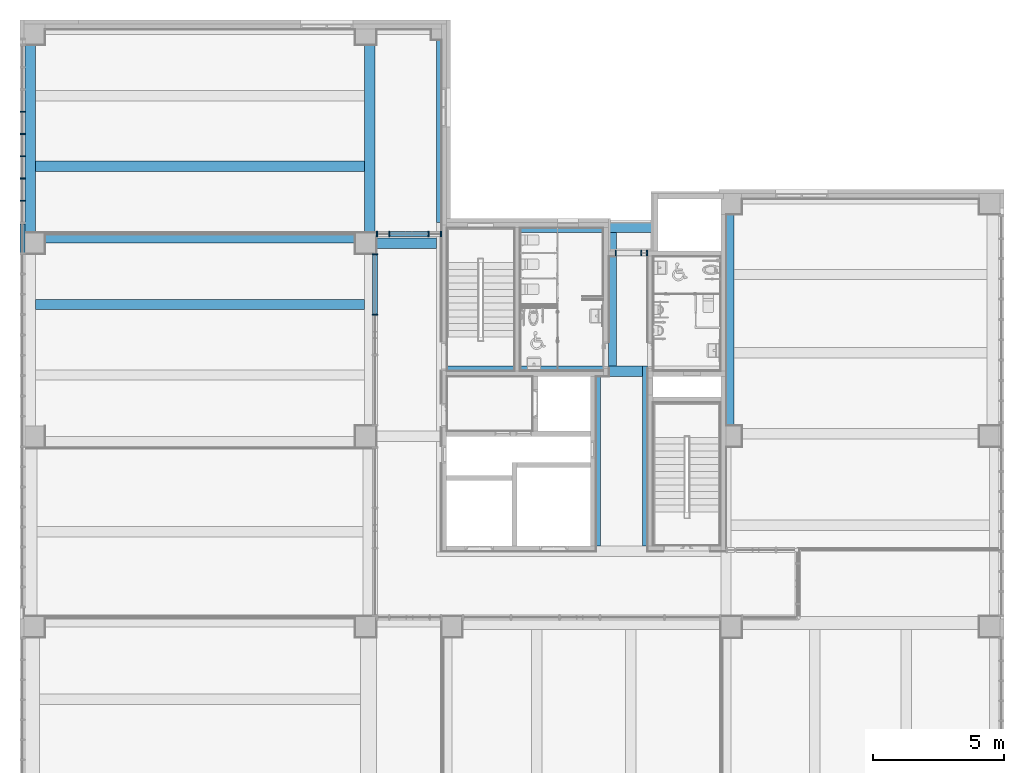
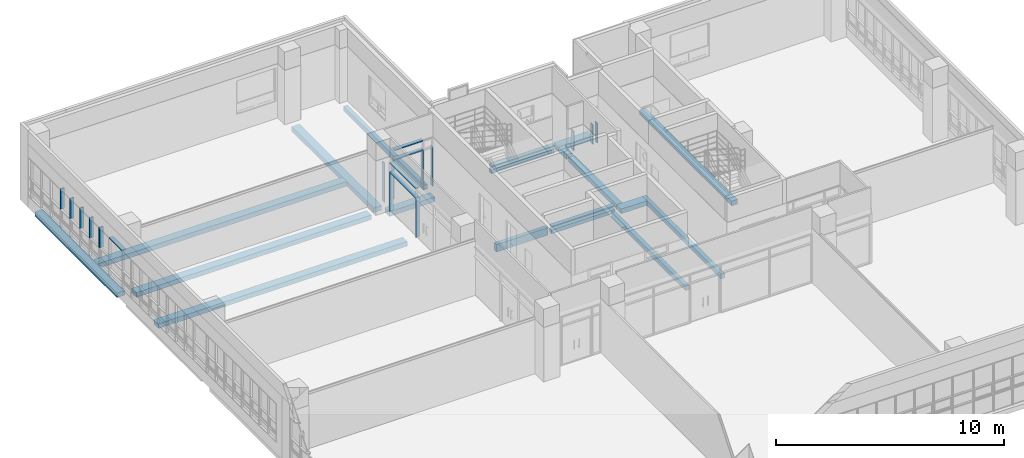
# One storey, part 6 of 81: 19 members, 13 beams, 4 elements without a shape of their own.
"""IFC2X3 building model written with IfcOpenShell, lengths in millimetres."""

from ifc_helpers import new_model, entity, si_unit, converted_unit, derived_unit, direction, frame, frame_2d, origin, origin_2d_with_axis, place, context, subcontext, project, spatial, rectangle, extrude, source, transform, mapped, material, type_object, type_shapes, element, aggregate, save


model = new_model("IFC2X3")

# Units and contexts
model_context = context("Model", 3, precision=0.01, world=origin(), true_north=direction((6.123031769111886e-17, 1.0)))
body_context = subcontext(model_context, "Body", "Model", "MODEL_VIEW")
ifc_project = project(units=[si_unit("LENGTHUNIT", "METRE", prefix="MILLI"), si_unit("AREAUNIT", "SQUARE_METRE"), si_unit("VOLUMEUNIT", "CUBIC_METRE"), converted_unit("PLANEANGLEUNIT", "DEGREE", entity("IfcRatioMeasure", 0.017453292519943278), si_unit("PLANEANGLEUNIT", "RADIAN"), dimensions=[0, 0, 0, 0, 0, 0, 0]), si_unit("MASSUNIT", "GRAM", prefix="KILO"), derived_unit("MASSDENSITYUNIT", [(si_unit("MASSUNIT", "GRAM", prefix="KILO"), 1), (si_unit("LENGTHUNIT", "METRE"), -3)]), derived_unit("MOMENTOFINERTIAUNIT", [(si_unit("LENGTHUNIT", "METRE"), 4)]), si_unit("TIMEUNIT", "SECOND"), si_unit("FREQUENCYUNIT", "HERTZ"), si_unit("THERMODYNAMICTEMPERATUREUNIT", "DEGREE_CELSIUS"), derived_unit("THERMALTRANSMITTANCEUNIT", [(si_unit("MASSUNIT", "GRAM", prefix="KILO"), 1), (si_unit("THERMODYNAMICTEMPERATUREUNIT", "KELVIN"), -1), (si_unit("TIMEUNIT", "SECOND"), -3)]), derived_unit("VOLUMETRICFLOWRATEUNIT", [(si_unit("LENGTHUNIT", "METRE"), 3), (si_unit("TIMEUNIT", "SECOND"), -1)]), derived_unit("MASSFLOWRATEUNIT", [(si_unit("MASSUNIT", "GRAM", prefix="KILO"), 1), (si_unit("TIMEUNIT", "SECOND"), -1)]), derived_unit("ROTATIONALFREQUENCYUNIT", [(si_unit("TIMEUNIT", "SECOND"), -1)]), si_unit("ELECTRICCURRENTUNIT", "AMPERE"), si_unit("ELECTRICVOLTAGEUNIT", "VOLT"), si_unit("POWERUNIT", "WATT"), si_unit("FORCEUNIT", "NEWTON", prefix="KILO"), si_unit("ILLUMINANCEUNIT", "LUX"), si_unit("LUMINOUSFLUXUNIT", "LUMEN"), si_unit("LUMINOUSINTENSITYUNIT", "CANDELA"), derived_unit("USERDEFINED", [(si_unit("MASSUNIT", "GRAM", prefix="KILO"), -1), (si_unit("LENGTHUNIT", "METRE"), -2), (si_unit("TIMEUNIT", "SECOND"), 3), (si_unit("LUMINOUSFLUXUNIT", "LUMEN"), 1)]), derived_unit("SOUNDPOWERUNIT", [(si_unit("MASSUNIT", "GRAM", prefix="KILO"), 1), (si_unit("LENGTHUNIT", "METRE"), 2), (si_unit("TIMEUNIT", "SECOND"), -3)]), derived_unit("SOUNDPRESSUREUNIT", [(si_unit("MASSUNIT", "GRAM", prefix="KILO"), 1), (si_unit("LENGTHUNIT", "METRE"), -1), (si_unit("TIMEUNIT", "SECOND"), -2)]), derived_unit("LINEARVELOCITYUNIT", [(si_unit("LENGTHUNIT", "METRE"), 1), (si_unit("TIMEUNIT", "SECOND"), -1)]), si_unit("PRESSUREUNIT", "PASCAL"), derived_unit("USERDEFINED", [(si_unit("LENGTHUNIT", "METRE"), -2), (si_unit("MASSUNIT", "GRAM", prefix="KILO"), 1), (si_unit("TIMEUNIT", "SECOND"), -2)]), derived_unit("LINEARFORCEUNIT", [(si_unit("MASSUNIT", "GRAM", prefix="KILO"), 1), (si_unit("LENGTHUNIT", "METRE"), 1), (si_unit("TIMEUNIT", "SECOND"), -2), (si_unit("LENGTHUNIT", "METRE"), -1)]), derived_unit("PLANARFORCEUNIT", [(si_unit("MASSUNIT", "GRAM", prefix="KILO"), 1), (si_unit("LENGTHUNIT", "METRE"), 1), (si_unit("TIMEUNIT", "SECOND"), -2), (si_unit("LENGTHUNIT", "METRE"), -2)])], contexts=[model_context])

# Site, building, storey
site_placement = place(None, frame((-14167.972527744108, -657.2125860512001, 0.0)))
site = spatial("IfcSite", under=ifc_project, at=site_placement, Name="Default", CompositionType="ELEMENT")
building_placement = place(site_placement, origin())
building = spatial("IfcBuilding", under=site, at=building_placement, Name="Sample Building", CompositionType="ELEMENT")
storey_placement = place(building_placement, frame((0.0, 0.0, 13400.0)))
storey = spatial("IfcBuildingStorey", under=building, at=storey_placement, Name="지상 4층", CompositionType="ELEMENT", Elevation=13400.00000000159)

# Curtain wall, members
curtain_wall_type = type_object("IfcCurtainWallType", Name="커튼월:CW112-스테인리스 스틸 커튼월", PredefinedType="NOTDEFINED")
curtain_wall_1_placement = place(storey_placement, frame((0.0, 0.0, -13400.0)))
curtain_wall_1 = element("IfcCurtainWall", 1, at=curtain_wall_1_placement, inside=storey, type_object=curtain_wall_type, Name="커튼월:CW112-스테인리스 스틸 커튼월", ObjectType="커튼월:CW112-스테인리스 스틸 커튼월")
ifc_material_1 = material(Name="<Unnamed>")
member_type_1 = type_object("IfcMemberType", Name="직사각형 멀리언:CW200-직사각형 멀리언 50x200mm", PredefinedType="MULLION", material=ifc_material_1)
shared_shape_1 = source(origin(), body_context, "Body", "SweptSolid", [
    extrude(rectangle(XDim=200.0, YDim=50.0, at=origin_2d_with_axis()), frame((0.0, 0.0, -2100.0), z_axis=(0.0, 0.0, 1.0), x_axis=(0.0, -1.0, 0.0)), (0.0, 0.0, 1.0), 2100.0),
])
type_shapes(member_type_1, [shared_shape_1])
member_1_placement = place(curtain_wall_1_placement, frame((29566.09100563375, 27712.17793519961, 13480.0), z_axis=(0.0, 0.0, -1.0), x_axis=(-1.0, 0.0, 0.0)))
member_1 = element("IfcMember", 2, at=member_1_placement, type_object=member_type_1, material=ifc_material_1, Name="직사각형 멀리언:CW200-직사각형 멀리언 50x200mm", ObjectType="직사각형 멀리언:CW200-직사각형 멀리언 50x200mm", context=body_context, shape_type="MappedRepresentation", body=[
    mapped(shared_shape_1, transform((0.0, 0.0, 0.0), scale=1.0)),
])
member_2_placement = place(curtain_wall_1_placement, frame((28066.091005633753, 27712.177935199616, 13480.0), z_axis=(0.0, 0.0, -1.0), x_axis=(-1.0, 0.0, 0.0)))
member_2 = element("IfcMember", 3, at=member_2_placement, type_object=member_type_1, material=ifc_material_1, Name="직사각형 멀리언:CW200-직사각형 멀리언 50x200mm", ObjectType="직사각형 멀리언:CW200-직사각형 멀리언 50x200mm", context=body_context, shape_type="MappedRepresentation", body=[
    mapped(shared_shape_1, transform((0.0, 0.0, 0.0), scale=1.0)),
])
member_type_2 = type_object("IfcMemberType", Name="직사각형 멀리언:CW200-직사각형 멀리언 50x200mm", PredefinedType="MULLION", material=ifc_material_1)
shared_shape_2 = source(origin(), body_context, "Body", "SweptSolid", [
    extrude(rectangle(XDim=200.0, YDim=50.0, at=origin_2d_with_axis()), frame((-25.0, 0.0, -2100.0), z_axis=(0.0, 0.0, 1.0), x_axis=(0.0, -1.0, 0.0)), (0.0, 0.0, 1.0), 2099.9999999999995),
])
type_shapes(member_type_2, [shared_shape_2])
member_3_placement = place(curtain_wall_1_placement, frame((30067.96376153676, 27712.17793519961, 15580.0)))
member_3 = element("IfcMember", 4, at=member_3_placement, type_object=member_type_2, material=ifc_material_1, Name="직사각형 멀리언:CW200-직사각형 멀리언 50x200mm", ObjectType="직사각형 멀리언:CW200-직사각형 멀리언 50x200mm", context=body_context, shape_type="MappedRepresentation", body=[
    mapped(shared_shape_2, transform((0.0, 0.0, 0.0), scale=1.0)),
])
member_type_3 = type_object("IfcMemberType", Name="직사각형 멀리언:CW200-직사각형 멀리언 50x200mm", PredefinedType="MULLION", material=ifc_material_1)
shared_shape_3 = source(origin(), body_context, "Body", "SweptSolid", [
    extrude(rectangle(XDim=200.0, YDim=50.0, at=origin_2d_with_axis()), frame((0.0, 0.0, -1450.0), z_axis=(0.0, 0.0, 1.0), x_axis=(0.0, -1.0, 0.0)), (0.0, 0.0, 1.0), 1450.000000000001),
])
type_shapes(member_type_3, [shared_shape_3])
member_4_placement = place(curtain_wall_1_placement, frame((28091.09100563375, 27712.177935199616, 15580.0), z_axis=(-1.0, 0.0, 0.0), x_axis=(0.0, 0.0, 1.0)))
member_4 = element("IfcMember", 5, at=member_4_placement, type_object=member_type_3, material=ifc_material_1, Name="직사각형 멀리언:CW200-직사각형 멀리언 50x200mm", ObjectType="직사각형 멀리언:CW200-직사각형 멀리언 50x200mm", context=body_context, shape_type="MappedRepresentation", body=[
    mapped(shared_shape_3, transform((0.0, 0.0, 0.0), scale=1.0)),
])
member_type_4 = type_object("IfcMemberType", Name="직사각형 멀리언:CW200-직사각형 멀리언 50x200mm", PredefinedType="MULLION", material=ifc_material_1)
shared_shape_4 = source(origin(), body_context, "Body", "SweptSolid", [
    extrude(rectangle(XDim=200.0, YDim=50.0, at=origin_2d_with_axis()), frame((-25.0, 0.0, -1450.0), z_axis=(0.0, 0.0, 1.0), x_axis=(0.0, -1.0, 0.0)), (0.0, 0.0, 1.0), 1450.0000000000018),
])
type_shapes(member_type_4, [shared_shape_4])
member_5_placement = place(curtain_wall_1_placement, frame((28091.09100563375, 27712.177935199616, 16100.0), z_axis=(-1.0, 0.0, 0.0), x_axis=(0.0, 0.0, 1.0)))
member_5 = element("IfcMember", 6, at=member_5_placement, type_object=member_type_4, material=ifc_material_1, Name="직사각형 멀리언:CW200-직사각형 멀리언 50x200mm", ObjectType="직사각형 멀리언:CW200-직사각형 멀리언 50x200mm", context=body_context, shape_type="MappedRepresentation", body=[
    mapped(shared_shape_4, transform((0.0, 0.0, 0.0), scale=1.0)),
])
member_type_5 = type_object("IfcMemberType", Name="직사각형 멀리언:CW200-직사각형 멀리언 50x200mm", PredefinedType="MULLION", material=ifc_material_1)
shared_shape_5 = source(origin(), body_context, "Body", "SweptSolid", [
    extrude(rectangle(XDim=200.0, YDim=50.0, at=origin_2d_with_axis()), frame((-25.0, 0.0, -2100.0), z_axis=(0.0, 0.0, 1.0), x_axis=(0.0, -1.0, 0.0)), (0.0, 0.0, 1.0), 2100.0),
])
type_shapes(member_type_5, [shared_shape_5])
member_6_placement = place(curtain_wall_1_placement, frame((27567.963761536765, 27712.177935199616, 13480.0), z_axis=(0.0, 0.0, -1.0), x_axis=(-1.0, 0.0, 0.0)))
member_6 = element("IfcMember", 7, at=member_6_placement, type_object=member_type_5, material=ifc_material_1, Name="직사각형 멀리언:CW200-직사각형 멀리언 50x200mm", ObjectType="직사각형 멀리언:CW200-직사각형 멀리언 50x200mm", context=body_context, shape_type="MappedRepresentation", body=[
    mapped(shared_shape_5, transform((0.0, 0.0, 0.0), scale=1.0)),
])
aggregate(curtain_wall_1, [member_6, member_3, member_4, member_1, member_5, member_2])

# Curtain wall, member
curtain_wall_2_placement = place(storey_placement, frame((0.0, 0.0, -13400.0)))
curtain_wall_2 = element("IfcCurtainWall", 8, at=curtain_wall_2_placement, inside=storey, type_object=curtain_wall_type, Name="커튼월:CW112-스테인리스 스틸 커튼월", ObjectType="커튼월:CW112-스테인리스 스틸 커튼월")
member_type_6 = type_object("IfcMemberType", Name="직사각형 멀리언:CW200-직사각형 멀리언 50x200mm", PredefinedType="MULLION", material=ifc_material_1)
shared_shape_6 = source(origin(), body_context, "Body", "SweptSolid", [
    extrude(rectangle(XDim=200.0, YDim=50.0, at=origin_2d_with_axis()), frame((-25.0, 0.0, -1120.0), z_axis=(0.0, 0.0, 1.0), x_axis=(0.0, -1.0, 0.0)), (0.0, 0.0, 1.0), 1120.0000000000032),
])
type_shapes(member_type_6, [shared_shape_6])
member_7_placement = place(curtain_wall_2_placement, frame((14018.570555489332, 26980.81770709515, 16100.0), z_axis=(0.0, -1.0, 0.0), x_axis=(0.0, 0.0, 1.0)))
member_7 = element("IfcMember", 9, at=member_7_placement, type_object=member_type_6, material=ifc_material_1, Name="직사각형 멀리언:CW200-직사각형 멀리언 50x200mm", ObjectType="직사각형 멀리언:CW200-직사각형 멀리언 50x200mm", context=body_context, shape_type="MappedRepresentation", body=[
    mapped(shared_shape_6, transform((0.0, 0.0, 0.0), scale=1.0)),
])

curtain_wall_3_placement = place(storey_placement, frame((0.0, 0.0, -13400.0)))
curtain_wall_3 = element("IfcCurtainWall", 10, at=curtain_wall_3_placement, inside=storey, type_object=curtain_wall_type, Name="커튼월:CW112-스테인리스 스틸 커튼월", ObjectType="커튼월:CW112-스테인리스 스틸 커튼월")
member_type_7 = type_object("IfcMemberType", Name="직사각형 멀리언:CW200-직사각형 멀리언 50x200mm", PredefinedType="MULLION", material=ifc_material_1)
shared_shape_7 = source(origin(), body_context, "Body", "SweptSolid", [
    extrude(rectangle(XDim=200.0, YDim=50.0, at=origin_2d_with_axis()), frame((-25.0, 0.0, -2100.0), z_axis=(0.0, 0.0, 1.0), x_axis=(0.0, -1.0, 0.0)), (0.0, 0.0, 1.0), 2099.9999999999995),
])
type_shapes(member_type_7, [shared_shape_7])
member_8_placement = place(curtain_wall_3_placement, frame((27523.086972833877, 26957.21230799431, 15580.0), z_axis=(0.0, 0.0, 1.0), x_axis=(0.0, 1.0, 0.0)))
member_8 = element("IfcMember", 11, at=member_8_placement, type_object=member_type_7, material=ifc_material_1, Name="직사각형 멀리언:CW200-직사각형 멀리언 50x200mm", ObjectType="직사각형 멀리언:CW200-직사각형 멀리언 50x200mm", context=body_context, shape_type="MappedRepresentation", body=[
    mapped(shared_shape_7, transform((0.0, 0.0, 0.0), scale=1.0)),
])

curtain_wall_4_placement = place(storey_placement, frame((0.0, 0.0, -13400.0)))
curtain_wall_4 = element("IfcCurtainWall", 12, at=curtain_wall_4_placement, inside=storey, type_object=curtain_wall_type, Name="커튼월:CW112-스테인리스 스틸 커튼월", ObjectType="커튼월:CW112-스테인리스 스틸 커튼월")
member_type_8 = type_object("IfcMemberType", Name="직사각형 멀리언:CW200-직사각형 멀리언 50x200mm", PredefinedType="MULLION", material=ifc_material_1)
shared_shape_8 = source(origin(), body_context, "Body", "SweptSolid", [
    extrude(rectangle(XDim=200.0, YDim=50.0, at=origin_2d_with_axis()), frame((-25.0, 0.0, -1050.0), z_axis=(0.0, 0.0, 1.0), x_axis=(0.0, -1.0, 0.0)), (0.0, 0.0, 1.0), 1050.0),
])
type_shapes(member_type_8, [shared_shape_8])
member_9_placement = place(curtain_wall_4_placement, frame((36717.963798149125, 26982.212295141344, 14530.0), z_axis=(0.0, 0.0, 1.0), x_axis=(-1.0, 0.0, 0.0)))
member_9 = element("IfcMember", 13, at=member_9_placement, type_object=member_type_8, material=ifc_material_1, Name="직사각형 멀리언:CW200-직사각형 멀리언 50x200mm", ObjectType="직사각형 멀리언:CW200-직사각형 멀리언 50x200mm", context=body_context, shape_type="MappedRepresentation", body=[
    mapped(shared_shape_8, transform((0.0, 0.0, 0.0), scale=1.0)),
])

# Member
member_type_9 = type_object("IfcMemberType", Name="직사각형 멀리언:CW200-직사각형 멀리언 50x200mm", PredefinedType="MULLION", material=ifc_material_1)
shared_shape_9 = source(origin(), body_context, "Body", "SweptSolid", [
    extrude(rectangle(XDim=200.0, YDim=50.0, at=origin_2d_with_axis()), frame((0.0, 0.0, -2100.0), z_axis=(0.0, 0.0, 1.0), x_axis=(0.0, -1.0, 0.0)), (0.0, 0.0, 1.0), 2100.0),
])
type_shapes(member_type_9, [shared_shape_9])
member_10_placement = place(curtain_wall_3_placement, frame((27523.086972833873, 24617.21230799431, 13480.0), z_axis=(0.0, 0.0, -1.0), x_axis=(0.0, -1.0, 0.0)))
member_10 = element("IfcMember", 14, at=member_10_placement, type_object=member_type_9, material=ifc_material_1, Name="직사각형 멀리언:CW200-직사각형 멀리언 50x200mm", ObjectType="직사각형 멀리언:CW200-직사각형 멀리언 50x200mm", context=body_context, shape_type="MappedRepresentation", body=[
    mapped(shared_shape_9, transform((0.0, 0.0, 0.0), scale=1.0)),
])

member_type_10 = type_object("IfcMemberType", Name="직사각형 멀리언:CW200-직사각형 멀리언 50x200mm", PredefinedType="MULLION", material=ifc_material_1)
shared_shape_10 = source(origin(), body_context, "Body", "SweptSolid", [
    extrude(rectangle(XDim=200.0, YDim=50.0, at=origin_2d_with_axis()), frame((-25.0, 0.0, -2265.0), z_axis=(0.0, 0.0, 1.0), x_axis=(0.0, -1.0, 0.0)), (0.0, 0.0, 1.0), 2265.0000000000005),
])
type_shapes(member_type_10, [shared_shape_10])
member_11_placement = place(curtain_wall_3_placement, frame((27523.086972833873, 24642.21230799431, 16100.0), z_axis=(0.0, -1.0, 0.0), x_axis=(0.0, 0.0, 1.0)))
member_11 = element("IfcMember", 15, at=member_11_placement, type_object=member_type_10, material=ifc_material_1, Name="직사각형 멀리언:CW200-직사각형 멀리언 50x200mm", ObjectType="직사각형 멀리언:CW200-직사각형 멀리언 50x200mm", context=body_context, shape_type="MappedRepresentation", body=[
    mapped(shared_shape_10, transform((0.0, 0.0, 0.0), scale=1.0)),
])

member_type_11 = type_object("IfcMemberType", Name="직사각형 멀리언:CW200-직사각형 멀리언 50x200mm", PredefinedType="MULLION", material=ifc_material_1)
shared_shape_11 = source(origin(), body_context, "Body", "SweptSolid", [
    extrude(rectangle(XDim=200.0, YDim=50.0, at=origin_2d_with_axis()), frame((0.0, 0.0, -2265.0), z_axis=(0.0, 0.0, 1.0), x_axis=(0.0, -1.0, 0.0)), (0.0, 0.0, 1.0), 2265.000000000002),
])
type_shapes(member_type_11, [shared_shape_11])
member_12_placement = place(curtain_wall_3_placement, frame((27523.086972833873, 24642.21230799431, 15580.0), z_axis=(0.0, -1.0, 0.0), x_axis=(0.0, 0.0, 1.0)))
member_12 = element("IfcMember", 16, at=member_12_placement, type_object=member_type_11, material=ifc_material_1, Name="직사각형 멀리언:CW200-직사각형 멀리언 50x200mm", ObjectType="직사각형 멀리언:CW200-직사각형 멀리언 50x200mm", context=body_context, shape_type="MappedRepresentation", body=[
    mapped(shared_shape_11, transform((0.0, 0.0, 0.0), scale=1.0)),
])

aggregate(curtain_wall_3, [member_11, member_10, member_8, member_12])

member_type_12 = type_object("IfcMemberType", Name="직사각형 멀리언:CW200-직사각형 멀리언 50x200mm", PredefinedType="MULLION", material=ifc_material_1)
shared_shape_12 = source(origin(), body_context, "Body", "SweptSolid", [
    extrude(rectangle(XDim=200.0, YDim=50.0, at=origin_2d_with_axis()), frame((0.0, 0.0, -1100.0), z_axis=(0.0, 0.0, 1.0), x_axis=(0.0, -1.0, 0.0)), (0.0, 0.0, 1.0), 1100.0000000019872),
])
type_shapes(member_type_12, [shared_shape_12])
member_13_placement = place(curtain_wall_2_placement, frame((14018.570555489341, 32393.317707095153, 15000.0), z_axis=(0.0, 0.0, -1.0), x_axis=(0.0, -1.0, 0.0)))
member_13 = element("IfcMember", 17, at=member_13_placement, type_object=member_type_12, material=ifc_material_1, Name="직사각형 멀리언:CW200-직사각형 멀리언 50x200mm", ObjectType="직사각형 멀리언:CW200-직사각형 멀리언 50x200mm", context=body_context, shape_type="MappedRepresentation", body=[
    mapped(shared_shape_12, transform((0.0, 0.0, 0.0), scale=1.0)),
])

member_14_placement = place(curtain_wall_2_placement, frame((14018.570555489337, 31539.817707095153, 15000.0), z_axis=(0.0, 0.0, -1.0), x_axis=(0.0, -1.0, 0.0)))
member_14 = element("IfcMember", 18, at=member_14_placement, type_object=member_type_12, material=ifc_material_1, Name="직사각형 멀리언:CW200-직사각형 멀리언 50x200mm", ObjectType="직사각형 멀리언:CW200-직사각형 멀리언 50x200mm", context=body_context, shape_type="MappedRepresentation", body=[
    mapped(shared_shape_12, transform((0.0, 0.0, 0.0), scale=1.0)),
])

member_15_placement = place(curtain_wall_2_placement, frame((14018.570555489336, 30686.317707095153, 15000.0), z_axis=(0.0, 0.0, -1.0), x_axis=(0.0, -1.0, 0.0)))
member_15 = element("IfcMember", 19, at=member_15_placement, type_object=member_type_12, material=ifc_material_1, Name="직사각형 멀리언:CW200-직사각형 멀리언 50x200mm", ObjectType="직사각형 멀리언:CW200-직사각형 멀리언 50x200mm", context=body_context, shape_type="MappedRepresentation", body=[
    mapped(shared_shape_12, transform((0.0, 0.0, 0.0), scale=1.0)),
])

member_16_placement = place(curtain_wall_2_placement, frame((14018.570555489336, 29832.81770709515, 15000.0), z_axis=(0.0, 0.0, -1.0), x_axis=(0.0, -1.0, 0.0)))
member_16 = element("IfcMember", 20, at=member_16_placement, type_object=member_type_12, material=ifc_material_1, Name="직사각형 멀리언:CW200-직사각형 멀리언 50x200mm", ObjectType="직사각형 멀리언:CW200-직사각형 멀리언 50x200mm", context=body_context, shape_type="MappedRepresentation", body=[
    mapped(shared_shape_12, transform((0.0, 0.0, 0.0), scale=1.0)),
])

member_17_placement = place(curtain_wall_2_placement, frame((14018.570555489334, 28979.31770709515, 15000.0), z_axis=(0.0, 0.0, -1.0), x_axis=(0.0, -1.0, 0.0)))
member_17 = element("IfcMember", 21, at=member_17_placement, type_object=member_type_12, material=ifc_material_1, Name="직사각형 멀리언:CW200-직사각형 멀리언 50x200mm", ObjectType="직사각형 멀리언:CW200-직사각형 멀리언 50x200mm", context=body_context, shape_type="MappedRepresentation", body=[
    mapped(shared_shape_12, transform((0.0, 0.0, 0.0), scale=1.0)),
])

aggregate(curtain_wall_2, [member_13, member_14, member_15, member_16, member_17, member_7])

member_type_13 = type_object("IfcMemberType", Name="직사각형 멀리언:CW200-직사각형 멀리언 50x200mm", PredefinedType="MULLION", material=ifc_material_1)
shared_shape_13 = source(origin(), body_context, "Body", "SweptSolid", [
    extrude(rectangle(XDim=200.0, YDim=50.0, at=origin_2d_with_axis()), frame((-25.0, 0.0, -1050.0), z_axis=(0.0, 0.0, 1.0), x_axis=(0.0, -1.0, 0.0)), (0.0, 0.0, 1.0), 1049.9999999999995),
])
type_shapes(member_type_13, [shared_shape_13])
member_18_placement = place(curtain_wall_4_placement, frame((37967.96379814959, 26982.21229514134, 13480.0), z_axis=(0.0, 0.0, -1.0), x_axis=(1.0, 0.0, 0.0)))
member_18 = element("IfcMember", 22, at=member_18_placement, type_object=member_type_13, material=ifc_material_1, Name="직사각형 멀리언:CW200-직사각형 멀리언 50x200mm", ObjectType="직사각형 멀리언:CW200-직사각형 멀리언 50x200mm", context=body_context, shape_type="MappedRepresentation", body=[
    mapped(shared_shape_13, transform((0.0, 0.0, 0.0), scale=1.0)),
])

member_type_14 = type_object("IfcMemberType", Name="직사각형 멀리언:CW200-직사각형 멀리언 50x200mm", PredefinedType="MULLION", material=ifc_material_1)
shared_shape_14 = source(origin(), body_context, "Body", "SweptSolid", [
    extrude(rectangle(XDim=200.0, YDim=50.0, at=origin_2d_with_axis()), frame((0.0, 0.0, -1050.0), z_axis=(0.0, 0.0, 1.0), x_axis=(0.0, -1.0, 0.0)), (0.0, 0.0, 1.0), 1049.9999999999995),
])
type_shapes(member_type_14, [shared_shape_14])
member_19_placement = place(curtain_wall_4_placement, frame((37717.963798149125, 26982.21229514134, 13480.0), z_axis=(0.0, 0.0, -1.0), x_axis=(1.0, 0.0, 0.0)))
member_19 = element("IfcMember", 23, at=member_19_placement, type_object=member_type_14, material=ifc_material_1, Name="직사각형 멀리언:CW200-직사각형 멀리언 50x200mm", ObjectType="직사각형 멀리언:CW200-직사각형 멀리언 50x200mm", context=body_context, shape_type="MappedRepresentation", body=[
    mapped(shared_shape_14, transform((0.0, 0.0, 0.0), scale=1.0)),
])

aggregate(curtain_wall_4, [member_18, member_19, member_9])

# Beams
ifc_material_2 = material(Name="KBIMS-콘크리트")
beam_type_1 = type_object("IfcBeamType", Name="BM111-철근콘크리트구조 보:BM110-철근 콘크리트구조 보_400 x 400_2-10G7", PredefinedType="NOTDEFINED")
beam_1_placement = place(storey_placement, frame((27318.061800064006, 27557.212617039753, 0.0), z_axis=(0.0, 0.0, 1.0), x_axis=(-1.0, 0.0, 0.0)))
element("IfcBeam", 24, at=beam_1_placement, inside=storey, type_object=beam_type_1, material=ifc_material_2, Name="BM111-철근콘크리트구조 보:BM110-철근 콘크리트구조 보_400 x 400_2-10G7", ObjectType="BM111-철근콘크리트구조 보:BM110-철근 콘크리트구조 보_400 x 400_2-10G7", context=body_context, shape_type="SweptSolid", body=[
    extrude(rectangle(XDim=250.00000000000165, YDim=400.0000000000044, at=frame_2d((-1.0800249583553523e-12, 0.0), x_axis=(1.0, 0.0))), frame((550.1066582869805, 0.0, -275.0), z_axis=(1.0, 0.0, 0.0), x_axis=(0.0, 0.0, -1.0)), (0.0, 0.0, 1.0), 11900.000055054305),
])
beam_type_2 = type_object("IfcBeamType", Name="BM111-철근콘크리트구조 보:BM110-철근 콘크리트구조 보_400 x 400_2-10B3", PredefinedType="NOTDEFINED")
beam_2_placement = place(storey_placement, frame((27318.06180006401, 25007.212373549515, 0.0), z_axis=(0.0, 0.0, 1.0), x_axis=(-1.0, 0.0, 0.0)))
element("IfcBeam", 25, at=beam_2_placement, inside=storey, type_object=beam_type_2, material=ifc_material_2, Name="BM111-철근콘크리트구조 보:BM110-철근 콘크리트구조 보_400 x 400_2-10B3", ObjectType="BM111-철근콘크리트구조 보:BM110-철근 콘크리트구조 보_400 x 400_2-10B3", context=body_context, shape_type="SweptSolid", body=[
    extrude(rectangle(XDim=250.00000000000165, YDim=400.0000000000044, at=frame_2d((-1.0800249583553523e-12, 0.0), x_axis=(1.0, 0.0))), frame((200.0, 0.0, -275.0), z_axis=(1.0, 0.0, 0.0), x_axis=(0.0, 0.0, -1.0)), (0.0, 0.0, 1.0), 12600.106578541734),
])
beam_3_placement = place(storey_placement, frame((27318.061800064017, 30307.21247892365, 0.0), z_axis=(0.0, 0.0, 1.0), x_axis=(-1.0, 0.0, 0.0)))
element("IfcBeam", 26, at=beam_3_placement, inside=storey, type_object=beam_type_2, material=ifc_material_2, Name="BM111-철근콘크리트구조 보:BM110-철근 콘크리트구조 보_400 x 400_2-10B3", ObjectType="BM111-철근콘크리트구조 보:BM110-철근 콘크리트구조 보_400 x 400_2-10B3", context=body_context, shape_type="SweptSolid", body=[
    extrude(rectangle(XDim=250.00000000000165, YDim=400.0000000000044, at=frame_2d((-1.0800249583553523e-12, 0.0), x_axis=(1.0, 0.0))), frame((200.0, 0.0, -275.0), z_axis=(1.0, 0.0, 0.0), x_axis=(0.0, 0.0, -1.0)), (0.0, 0.0, 1.0), 12600.106578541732),
])
beam_type_3 = type_object("IfcBeamType", Name="BM111-철근콘크리트구조 보:BM110-철근 콘크리트구조 보_400 x 400_2-10G3", PredefinedType="NOTDEFINED")
beam_4_placement = place(storey_placement, frame((27318.061800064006, 27357.212478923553, 0.0)))
element("IfcBeam", 27, at=beam_4_placement, inside=storey, type_object=beam_type_3, material=ifc_material_2, Name="BM111-철근콘크리트구조 보:BM110-철근 콘크리트구조 보_400 x 400_2-10G3", ObjectType="BM111-철근콘크리트구조 보:BM110-철근 콘크리트구조 보_400 x 400_2-10G3", context=body_context, shape_type="SweptSolid", body=[
    extrude(rectangle(XDim=250.00000000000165, YDim=400.0000000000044, at=frame_2d((-1.0800249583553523e-12, 0.0), x_axis=(1.0, 0.0))), frame((249.89334171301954, 0.0, -275.0), z_axis=(1.0, 0.0, 0.0), x_axis=(0.0, 0.0, -1.0)), (0.0, 0.0, 1.0), 2299.991307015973),
])
beam_type_4 = type_object("IfcBeamType", Name="BM111-철근콘크리트구조 보:BM110-철근 콘크리트구조 보_400 x 400_2-10G10", PredefinedType="NOTDEFINED")
beam_5_placement = place(storey_placement, frame((14317.95522152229, 27157.21261704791, 0.0), z_axis=(0.0, 0.0, 1.0), x_axis=(0.0, 1.0, 0.0)))
element("IfcBeam", 28, at=beam_5_placement, inside=storey, type_object=beam_type_4, material=ifc_material_2, Name="BM111-철근콘크리트구조 보:BM110-철근 콘크리트구조 보_400 x 400_2-10G10", ObjectType="BM111-철근콘크리트구조 보:BM110-철근 콘크리트구조 보_400 x 400_2-10G10", context=body_context, shape_type="SweptSolid", body=[
    extrude(rectangle(XDim=250.00000000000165, YDim=400.0000000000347, at=frame_2d((-1.0800249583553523e-12, -2.3817392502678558e-11), x_axis=(1.0, 0.0))), frame((600.0, 0.0, -275.0), z_axis=(1.0, 0.0, 0.0), x_axis=(0.0, 0.0, -1.0)), (0.0, 0.0, 1.0), 7199.999972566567),
])
beam_6_placement = place(storey_placement, frame((27318.061800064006, 27357.212478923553, 0.0), z_axis=(0.0, 0.0, 1.0), x_axis=(0.0, 1.0, 0.0)))
element("IfcBeam", 29, at=beam_6_placement, inside=storey, type_object=beam_type_4, material=ifc_material_2, Name="BM111-철근콘크리트구조 보:BM110-철근 콘크리트구조 보_400 x 400_2-10G10", ObjectType="BM111-철근콘크리트구조 보:BM110-철근 콘크리트구조 보_400 x 400_2-10G10", context=body_context, shape_type="SweptSolid", body=[
    extrude(rectangle(XDim=250.00000000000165, YDim=400.000000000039, at=frame_2d((-1.0800249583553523e-12, -2.1657342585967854e-11), x_axis=(1.0, 0.0))), frame((400.0001381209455, 0.0, -275.0), z_axis=(1.0, 0.0, 0.0), x_axis=(0.0, 0.0, -1.0)), (0.0, 0.0, 1.0), 7199.999987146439),
])
beam_type_5 = type_object("IfcBeamType", Name="BM111-철근콘크리트구조 보:BM110-철근 콘크리트구조 보_500 x 400_2-10G5", PredefinedType="NOTDEFINED")
beam_7_placement = place(storey_placement, frame((41017.972607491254, 29057.212617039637, 0.0), z_axis=(0.0, 0.0, 1.0), x_axis=(0.0, -1.0, 0.0)))
element("IfcBeam", 30, at=beam_7_placement, inside=storey, type_object=beam_type_5, material=ifc_material_2, Name="BM111-철근콘크리트구조 보:BM110-철근 콘크리트구조 보_500 x 400_2-10G5", ObjectType="BM111-철근콘크리트구조 보:BM110-철근 콘크리트구조 보_500 x 400_2-10G5", context=body_context, shape_type="SweptSolid", body=[
    extrude(rectangle(XDim=250.00000000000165, YDim=300.0088093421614, at=frame_2d((-1.0800249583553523e-12, -1.7323031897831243e-11), x_axis=(1.0, 0.0))), frame((600.0, 99.99559532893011, -275.0), z_axis=(1.0, 0.0, 0.0), x_axis=(0.0, 0.0, -1.0)), (0.0, 0.0, 1.0), 8100.000000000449),
])
beam_type_6 = type_object("IfcBeamType", Name="BM111-철근콘크리트구조 보:BM110-철근 콘크리트구조 보_400 x 400_2-10G2", PredefinedType="BEAM", material=ifc_material_2)
beam_8_placement = place(storey_placement, frame((30067.94641218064, 28157.212604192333, 0.0), z_axis=(0.0, 0.0, 1.0), x_axis=(0.0, 1.0, 0.0)))
element("IfcBeam", 31, at=beam_8_placement, inside=storey, type_object=beam_type_6, material=ifc_material_2, Name="BM111-철근콘크리트구조 보:BM110-철근 콘크리트구조 보_400 x 400_2-10G2", ObjectType="BM111-철근콘크리트구조 보:BM110-철근 콘크리트구조 보_400 x 400_2-10G2", context=body_context, shape_type="SweptSolid", body=[
    extrude(rectangle(XDim=250.00000000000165, YDim=200.01734935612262, at=frame_2d((-1.0800249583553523e-12, -6.501466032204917e-12), x_axis=(1.0, 0.0))), frame((0.0, 99.99132532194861, -275.0), z_axis=(1.0, 0.0, 0.0), x_axis=(0.0, 0.0, -1.0)), (0.0, 0.0, 1.0), 7000.000012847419),
])
beam_type_7 = type_object("IfcBeamType", Name="BM111-철근콘크리트구조 보:BM110-철근 콘크리트구조 보_400 x 400_2-10WG2", PredefinedType="NOTDEFINED")
beam_9_placement = place(storey_placement, frame((35967.95514177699, 15557.212604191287, 0.0), z_axis=(0.0, 0.0, 1.0), x_axis=(0.0, 1.0, 0.0)))
element("IfcBeam", 32, at=beam_9_placement, inside=storey, type_object=beam_type_7, material=ifc_material_2, Name="BM111-철근콘크리트구조 보:BM110-철근 콘크리트구조 보_400 x 400_2-10WG2", ObjectType="BM111-철근콘크리트구조 보:BM110-철근 콘크리트구조 보_400 x 400_2-10WG2", context=body_context, shape_type="SweptSolid", body=[
    extrude(rectangle(XDim=250.00000000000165, YDim=199.98265064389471, at=frame_2d((-1.0800249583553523e-12, -2.1600499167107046e-12), x_axis=(1.0, 0.0))), frame((200.0, -100.00867467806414, -275.0), z_axis=(1.0, 0.0, 0.0), x_axis=(0.0, 0.0, -1.0)), (0.0, 0.0, 1.0), 6499.999509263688),
])
beam_type_8 = type_object("IfcBeamType", Name="BM111-철근콘크리트구조 보:BM110-철근 콘크리트구조 보_400 x 400_2-10B4", PredefinedType="NOTDEFINED")
beam_10_placement = place(storey_placement, frame((37967.94644879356, 15557.212604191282, 0.0), z_axis=(0.0, 0.0, 1.0), x_axis=(0.0, 1.0, 0.0)))
element("IfcBeam", 33, at=beam_10_placement, inside=storey, type_object=beam_type_8, material=ifc_material_2, Name="BM111-철근콘크리트구조 보:BM110-철근 콘크리트구조 보_400 x 400_2-10B4", ObjectType="BM111-철근콘크리트구조 보:BM110-철근 콘크리트구조 보_400 x 400_2-10B4", context=body_context, shape_type="SweptSolid", body=[
    extrude(rectangle(XDim=250.00000000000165, YDim=200.01734935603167, at=frame_2d((-1.0800249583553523e-12, -1.256168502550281e-10), x_axis=(1.0, 0.0))), frame((200.0, 99.99132532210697, -275.0), z_axis=(1.0, 0.0, 0.0), x_axis=(0.0, 0.0, -1.0)), (0.0, 0.0, 1.0), 6899.999509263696),
])
beam_type_9 = type_object("IfcBeamType", Name="BM111-철근콘크리트구조 보:BM110-철근 콘크리트구조 보_400 x 400_2-10WG2", PredefinedType="BEAM", material=ifc_material_2)
shared_shape_15 = source(origin(), body_context, "Body", "SweptSolid", [
    extrude(rectangle(XDim=49.99999999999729, YDim=199.99980212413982, at=frame_2d((0.0, -2.1671553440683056e-12), x_axis=(1.0, 0.0))), frame((33067.972491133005, 22557.212212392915, 13375.0), z_axis=(1.0, 0.0, 0.0), x_axis=(0.0, 0.0, -1.0)), (0.0, 0.0, 1.0), 3199.9913070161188),
    extrude(rectangle(XDim=250.00000000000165, YDim=400.0000000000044, at=frame_2d((-1.0800249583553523e-12, 0.0), x_axis=(1.0, 0.0))), frame((36467.963798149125, 22457.212113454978, 13125.0), z_axis=(1.0, 0.0, 0.0), x_axis=(0.0, 0.0, -1.0)), (0.0, 0.0, 1.0), 1299.982650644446),
    extrude(rectangle(XDim=400.0, YDim=199.99980212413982, at=frame_2d((0.0, -2.1671553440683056e-12), x_axis=(1.0, 0.0))), frame((30267.946448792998, 22557.212212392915, 13200.0), z_axis=(1.0, 0.0, 0.0), x_axis=(0.0, 0.0, -1.0)), (0.0, 0.0, 1.0), 2600.0260423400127),
    extrude(rectangle(XDim=200.0000000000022, YDim=199.9998021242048, at=frame_2d((0.0, -3.4653169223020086e-11), x_axis=(1.0, 0.0))), frame((33067.972491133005, 22557.212212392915, 13100.0), z_axis=(1.0, 0.0, 0.0), x_axis=(0.0, 0.0, -1.0)), (0.0, 0.0, 1.0), 3199.9913070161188),
])
type_shapes(beam_type_9, [shared_shape_15])
beam_11_placement = place(storey_placement, frame((0.0, 0.0, -13400.0)))
element("IfcBeam", 34, at=beam_11_placement, inside=storey, type_object=beam_type_9, material=ifc_material_2, Name="BM111-철근콘크리트구조 보:BM110-철근 콘크리트구조 보_400 x 400_2-10WG2", ObjectType="BM111-철근콘크리트구조 보:BM110-철근 콘크리트구조 보_400 x 400_2-10WG2", context=body_context, shape_type="MappedRepresentation", body=[
    mapped(shared_shape_15, transform((0.0, 0.0, 0.0), scale=1.0)),
])
beam_type_10 = type_object("IfcBeamType", Name="BM111-철근콘크리트구조 보:BM110-철근 콘크리트구조 보_400 x 400_2-10B4", PredefinedType="BEAM", material=ifc_material_2)
shared_shape_16 = source(origin(), body_context, "Body", "SweptSolid", [
    extrude(rectangle(XDim=250.00000000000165, YDim=300.00011635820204, at=frame_2d((-4.334310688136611e-12, 1.0800249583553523e-12), x_axis=(0.0, 1.0))), frame((36617.96385632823, 26857.212295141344, 13125.0), z_axis=(0.0, -1.0, 0.0), x_axis=(-1.0, 0.0, 0.0)), (0.0, 0.0, 1.0), 4200.000181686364),
    extrude(rectangle(XDim=250.00000000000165, YDim=300.00011635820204, at=frame_2d((0.0, 1.0800249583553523e-12), x_axis=(0.0, 1.0))), frame((36617.96385632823, 27757.212426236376, 13125.0), z_axis=(0.0, -1.0, 0.0), x_axis=(-1.0, 0.0, 0.0)), (0.0, 0.0, 1.0), 700.0001310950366),
])
type_shapes(beam_type_10, [shared_shape_16])
beam_12_placement = place(storey_placement, frame((0.0, 0.0, -13400.0)))
element("IfcBeam", 35, at=beam_12_placement, inside=storey, type_object=beam_type_10, material=ifc_material_2, Name="BM111-철근콘크리트구조 보:BM110-철근 콘크리트구조 보_400 x 400_2-10B4", ObjectType="BM111-철근콘크리트구조 보:BM110-철근 콘크리트구조 보_400 x 400_2-10B4", context=body_context, shape_type="MappedRepresentation", body=[
    mapped(shared_shape_16, transform((0.0, 0.0, 0.0), scale=1.0)),
])
beam_type_11 = type_object("IfcBeamType", Name="BM111-철근콘크리트구조 보:BM110-철근 콘크리트구조 보_400 x 400_2-10B5", PredefinedType="BEAM", material=ifc_material_2)
shared_shape_17 = source(origin(), body_context, "Body", "SweptSolid", [
    extrude(rectangle(XDim=250.00000000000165, YDim=400.0000000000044, at=frame_2d((-1.0800249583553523e-12, 0.0), x_axis=(1.0, 0.0))), frame((36467.963798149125, 27957.212426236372, 13125.0), z_axis=(1.0, 0.0, 0.0), x_axis=(0.0, 0.0, -1.0)), (0.0, 0.0, 1.0), 1700.0086929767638),
    extrude(rectangle(XDim=49.99999999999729, YDim=199.99988175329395, at=frame_2d((0.0, 4.334310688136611e-12), x_axis=(1.0, 0.0))), frame((33067.972491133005, 27857.212367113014, 13375.0), z_axis=(1.0, 0.0, 0.0), x_axis=(0.0, 0.0, -1.0)), (0.0, 0.0, 1.0), 3199.9913070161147),
    extrude(rectangle(XDim=200.0000000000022, YDim=199.99988175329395, at=frame_2d((0.0, 2.1671553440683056e-12), x_axis=(1.0, 0.0))), frame((33067.972491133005, 27857.212367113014, 13100.0), z_axis=(1.0, 0.0, 0.0), x_axis=(0.0, 0.0, -1.0)), (0.0, 0.0, 1.0), 3199.9913070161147),
])
type_shapes(beam_type_11, [shared_shape_17])
beam_13_placement = place(storey_placement, frame((0.0, 0.0, -13400.0)))
element("IfcBeam", 36, at=beam_13_placement, inside=storey, type_object=beam_type_11, material=ifc_material_2, Name="BM111-철근콘크리트구조 보:BM110-철근 콘크리트구조 보_400 x 400_2-10B5", ObjectType="BM111-철근콘크리트구조 보:BM110-철근 콘크리트구조 보_400 x 400_2-10B5", context=body_context, shape_type="MappedRepresentation", body=[
    mapped(shared_shape_17, transform((0.0, 0.0, 0.0), scale=1.0)),
])

save(model, "model.ifc")
